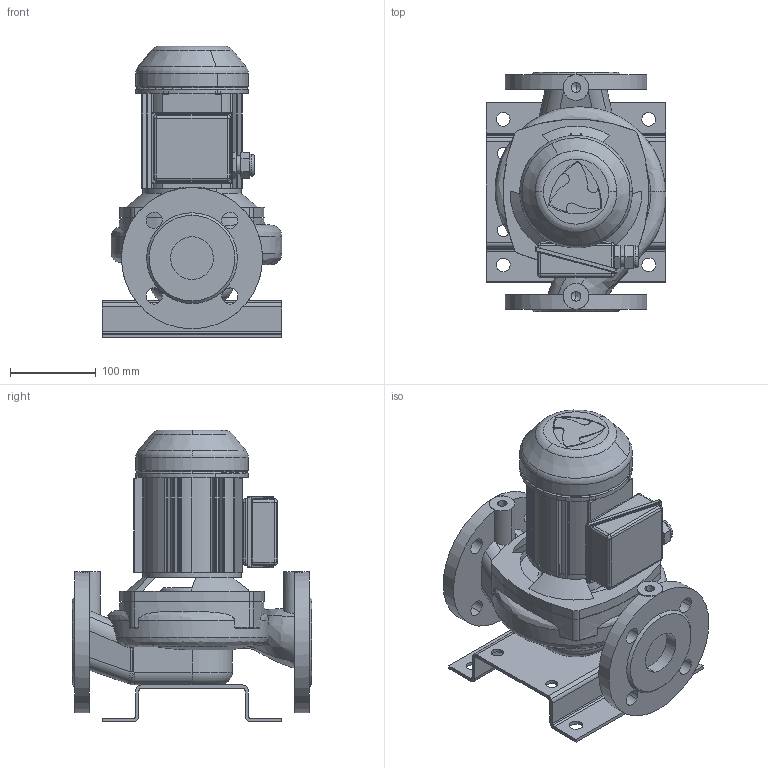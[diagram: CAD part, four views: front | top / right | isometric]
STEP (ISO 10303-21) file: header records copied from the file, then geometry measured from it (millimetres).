
FILE_DESCRIPTION(('STEP AP214'),'1');
FILE_NAME('export.stp','2018-05-29T06:05:36',(' '),(' '),'Spatial InterOp 3D',' ',' ');
FILE_SCHEMA(('AUTOMOTIVE_DESIGN { 1 0 10303 214 1 1 1 1 }'));
Length unit declared in the file: millimetre
Products named in the file (9): V_MOP752753762; RU_OP_752_753_762; TSUOJA_OP_7; KYTKOTELO_OP7_OKN8; W_L50A4250; V_EKF15OP7; V_TLL50ABC; V_PPL50ABC; V_JALKA35973
Assembly tree (8 placements, depth 3):
  W_L50A4250
    V_MOP752753762
      RU_OP_752_753_762
      TSUOJA_OP_7
      KYTKOTELO_OP7_OKN8
    V_EKF15OP7
    V_TLL50ABC
    V_PPL50ABC
    V_JALKA35973
Bounding box: 210 x 280 x 340.6 mm (x, y, z)
Volume: 4361158.9 mm3; surface area: 655416.1 mm2
Topology: 7 solids, 8 shells, 524 faces, 1409 edges, 902 vertices
Faces by surface type: cylinder 310, plane 131, cone 25, torus 21, sphere 20, bspline 17
Entity records: 29214 total; most frequent: CARTESIAN_POINT 6433, DIRECTION 3045, ORIENTED_EDGE 2782, STYLED_ITEM 1498, PRESENTATION_STYLE_ASSIGNMENT 1498, COLOUR_RGB 1498, EDGE_CURVE 1391, AXIS2_PLACEMENT_3D 1248
